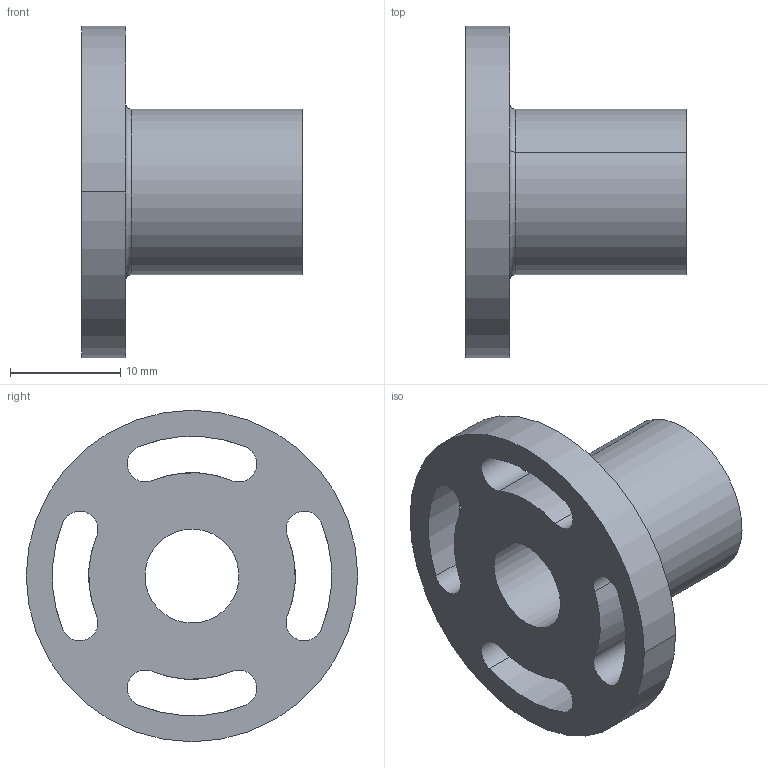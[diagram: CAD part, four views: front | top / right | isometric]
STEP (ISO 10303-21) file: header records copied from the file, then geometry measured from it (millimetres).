
FILE_DESCRIPTION(('CATIA V5 STEP Exchange'),'2;1');
FILE_NAME('C:\Users\aa\Documents\이댈\TM\CTM\CTM8.stp','2020-03-26T09:07:45+00:00',('none'),('none'),'CATIA Version 5 Release 20 SP 7 (IN-10)','CATIA V5 STEP AP203','none');
FILE_SCHEMA(('CONFIG_CONTROL_DESIGN'));
Length unit declared in the file: millimetre
Products named in the file (1): CTM8
Bounding box: 20 x 30 x 30 mm (x, y, z)
Volume: 3929.5 mm3; surface area: 3101.1 mm2
Topology: 1 solids, 1 shells, 27 faces, 70 edges, 46 vertices
Faces by surface type: cylinder 22, plane 3, torus 2
Entity records: 1134 total; most frequent: CARTESIAN_POINT 460, ORIENTED_EDGE 140, DIRECTION 98, EDGE_CURVE 70, AXIS2_PLACEMENT_3D 50, VERTEX_POINT 46, EDGE_LOOP 38, ADVANCED_FACE 27
